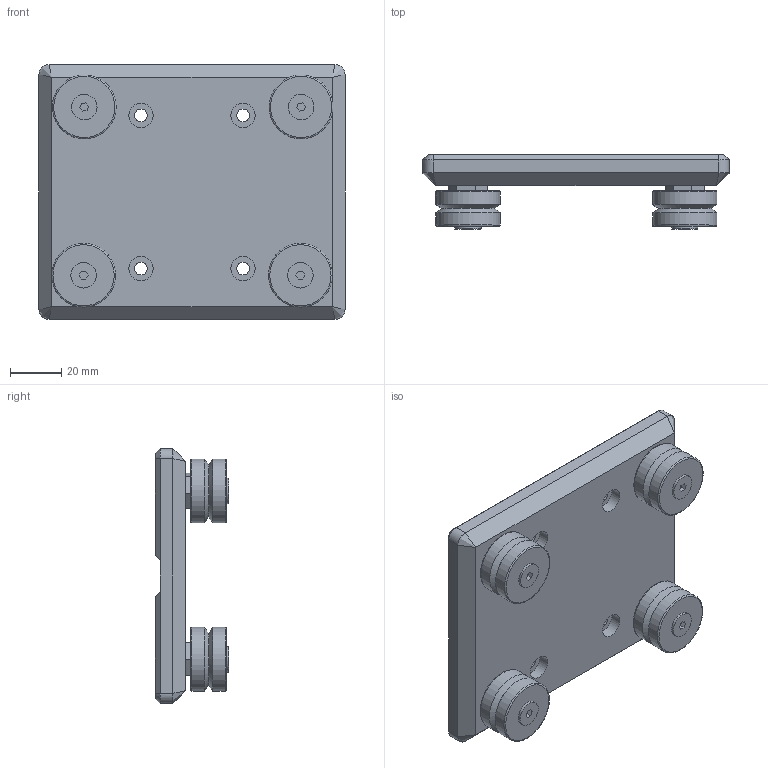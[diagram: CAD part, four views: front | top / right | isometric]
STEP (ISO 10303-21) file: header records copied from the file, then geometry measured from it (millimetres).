
FILE_DESCRIPTION(('STEP AP203'),'1');
FILE_NAME('//192.168.1.1/share/s-4 技術開発/s-4-4_CAD/s-4-4-3_見直し済み/RG 修正済み/RG_TOP/キャリッジプレート/RG-120(GS-44C).step','2022-03-28T02:05:23',(' '),(' '),'Spatial InterOp 3D',' ',' ');
FILE_SCHEMA(('CONFIG_CONTROL_DESIGN'));
Length unit declared in the file: millimetre
Products named in the file (13): 1; 2; 3; 4; 5; 6; 7; 8; 9; 10; 11; 12; 13
Bounding box: 120 x 29 x 100 mm (x, y, z)
Volume: 152021.9 mm3; surface area: 45295.1 mm2
Topology: 13 solids, 13 shells, 278 faces, 608 edges, 374 vertices
Faces by surface type: plane 150, cone 60, cylinder 52, torus 8, bspline 4, sphere 4
Full cylindrical faces by diameter (mm): 5 x4, 6.75 x4, 8 x12, 8.5 x4, 9.5 x4, 10 x4, 18 x4, 22 x4, 25 x8
Entity records: 8170 total; most frequent: CARTESIAN_POINT 1897, DIRECTION 1172, ORIENTED_EDGE 1052, EDGE_CURVE 526, AXIS2_PLACEMENT_3D 467, EDGE_LOOP 400, VERTEX_POINT 364, FACE_OUTER_BOUND 336
